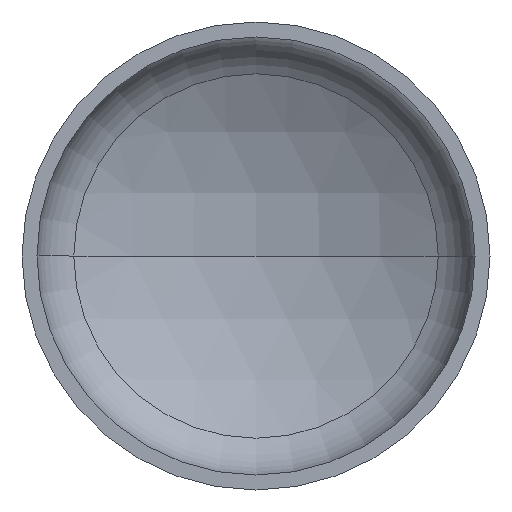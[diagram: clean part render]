
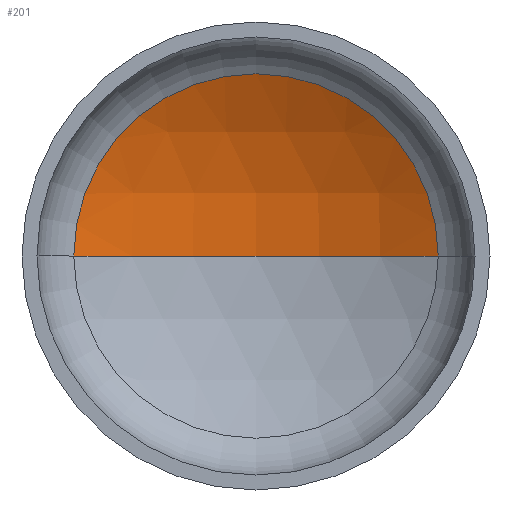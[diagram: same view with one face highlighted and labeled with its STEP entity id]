
A CAD part, front view. The second image highlights one B-rep face of the part: STEP entity #201.
In plain terms, the highlighted spherical face has radius 1200 mm.
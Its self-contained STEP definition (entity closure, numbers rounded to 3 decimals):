
#7 = CARTESIAN_POINT ( 'NONE',  ( 0., -697.417, 0. ) ) ;
#16 = CARTESIAN_POINT ( 'NONE',  ( 0., -697.417, 0. ) ) ;
#17 = EDGE_LOOP ( 'NONE', ( #86, #73, #402 ) ) ;
#43 = AXIS2_PLACEMENT_3D ( 'NONE', #185, #173, #253 ) ;
#55 = VERTEX_POINT ( 'NONE', #361 ) ;
#58 = AXIS2_PLACEMENT_3D ( 'NONE', #16, #230, #186 ) ;
#61 = AXIS2_PLACEMENT_3D ( 'NONE', #7, #299, #347 ) ;
#64 = AXIS2_PLACEMENT_3D ( 'NONE', #179, #180, #213 ) ;
#73 = ORIENTED_EDGE ( 'NONE', *, *, #147, .T. ) ;
#86 = ORIENTED_EDGE ( 'NONE', *, *, #150, .F. ) ;
#96 = VERTEX_POINT ( 'NONE', #227 ) ;
#97 = VERTEX_POINT ( 'NONE', #322 ) ;
#130 = CIRCLE ( 'NONE', #58, 1200. ) ;
#135 = EDGE_CURVE ( 'NONE', #96, #97, #204, .T. ) ;
#147 = EDGE_CURVE ( 'NONE', #55, #96, #196, .T. ) ;
#150 = EDGE_CURVE ( 'NONE', #55, #97, #130, .T. ) ;
#173 = DIRECTION ( 'NONE',  ( 0., 0., -1. ) ) ;
#178 = FACE_OUTER_BOUND ( 'NONE', #17, .T. ) ;
#179 = CARTESIAN_POINT ( 'NONE',  ( 0., 350.934, 0. ) ) ;
#180 = DIRECTION ( 'NONE',  ( 0., -1., 0. ) ) ;
#185 = CARTESIAN_POINT ( 'NONE',  ( 0., -697.417, 0. ) ) ;
#186 = DIRECTION ( 'NONE',  ( 1., 0., 0. ) ) ;
#196 = CIRCLE ( 'NONE', #61, 1200. ) ;
#201 = ADVANCED_FACE ( 'NONE', ( #178 ), #366, .F. ) ;
#204 = CIRCLE ( 'NONE', #64, 583.918 ) ;
#213 = DIRECTION ( 'NONE',  ( 1., 0., 0. ) ) ;
#227 = CARTESIAN_POINT ( 'NONE',  ( 583.918, 350.934, 0. ) ) ;
#230 = DIRECTION ( 'NONE',  ( 0., 0., 1. ) ) ;
#253 = DIRECTION ( 'NONE',  ( -1., 0., 0. ) ) ;
#299 = DIRECTION ( 'NONE',  ( 0., 0., -1. ) ) ;
#322 = CARTESIAN_POINT ( 'NONE',  ( -583.918, 350.934, 0. ) ) ;
#347 = DIRECTION ( 'NONE',  ( -1., 0., 0. ) ) ;
#361 = CARTESIAN_POINT ( 'NONE',  ( 0., 502.583, 0. ) ) ;
#366 = SPHERICAL_SURFACE ( 'NONE', #43, 1200. ) ;
#402 = ORIENTED_EDGE ( 'NONE', *, *, #135, .T. ) ;
